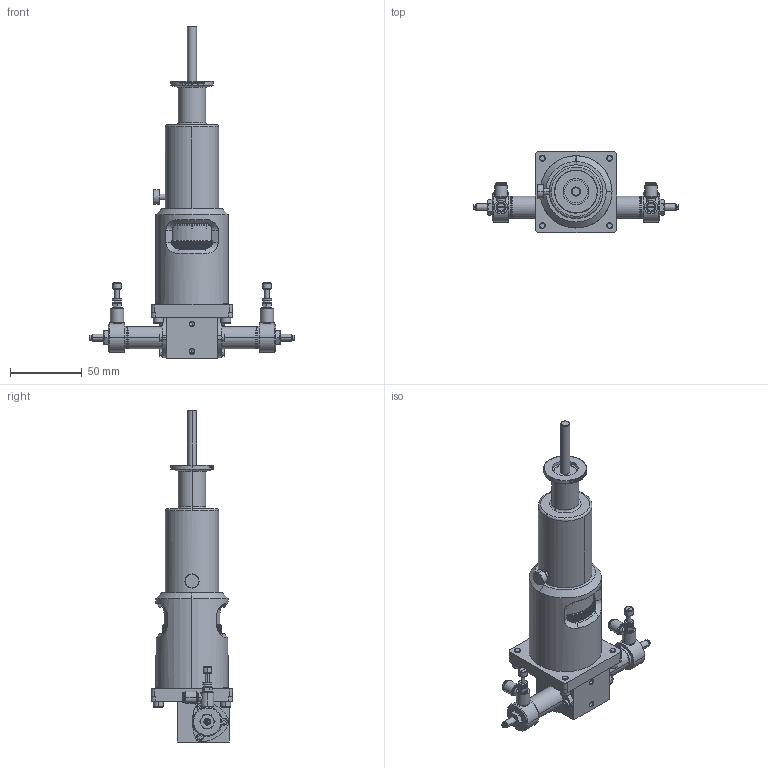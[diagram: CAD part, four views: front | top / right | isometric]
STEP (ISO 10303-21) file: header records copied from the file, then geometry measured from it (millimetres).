
FILE_DESCRIPTION (( 'STEP AP203' ), '1' );
FILE_NAME ('102140.31-112687.stp', '2019-04-18T17:14:05', ( '' ), ( '' ), 'SwSTEP 2.0', 'SolidWorks 2012', '' );
FILE_SCHEMA (( 'CONFIG_CONTROL_DESIGN' ));
Products named in the file (1): 102140.31-112687
Bounding box: 143.87 x 56.64 x 232 mm (x, y, z)
Volume: 290492.6 mm3; surface area: 47663.7 mm2
Topology: 1 solids, 12 shells, 1717 faces, 4602 edges, 3005 vertices
Faces by surface type: plane 782, cylinder 561, cone 210, bspline 164
Entity records: 80036 total; most frequent: CARTESIAN_POINT 38008, ORIENTED_EDGE 9172, DIRECTION 8321, EDGE_CURVE 4586, AXIS2_PLACEMENT_3D 3103, VERTEX_POINT 3005, VECTOR 2115, LINE 2115
